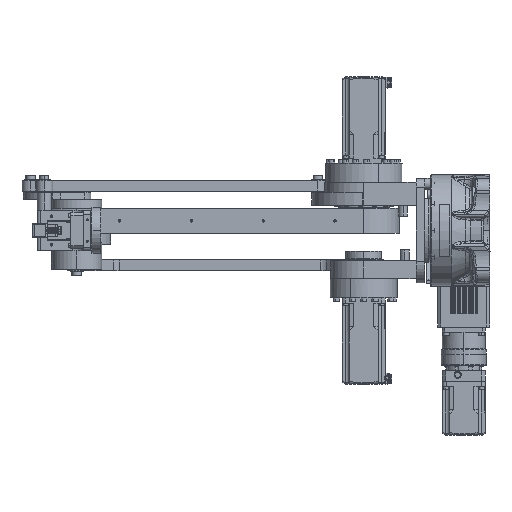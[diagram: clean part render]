
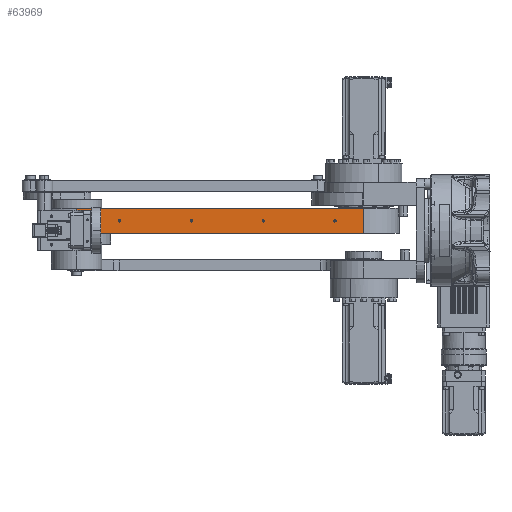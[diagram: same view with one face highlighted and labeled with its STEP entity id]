
A CAD part, left-side view. The second image highlights one B-rep face of the part: STEP entity #63969.
In plain terms, the highlighted planar face has unit normal (-1, 0, 0).
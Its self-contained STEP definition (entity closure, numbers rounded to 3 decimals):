
#525 = CARTESIAN_POINT ( 'NONE',  ( -50., 176., 31. ) ) ;
#1633 = PLANE ( 'NONE',  #113576 ) ;
#2917 = AXIS2_PLACEMENT_3D ( 'NONE', #69929, #74149, #100981 ) ;
#3116 = DIRECTION ( 'NONE',  ( -1., 0., 0. ) ) ;
#5730 = CARTESIAN_POINT ( 'NONE',  ( -50., 176., -513.902 ) ) ;
#5913 = CARTESIAN_POINT ( 'NONE',  ( -50., 576., -4. ) ) ;
#11472 = CARTESIAN_POINT ( 'NONE',  ( -50., 316., 15.15 ) ) ;
#12243 = CARTESIAN_POINT ( 'NONE',  ( -50., 216., 11.85 ) ) ;
#12965 = CARTESIAN_POINT ( 'NONE',  ( -50., 216., 13.5 ) ) ;
#13196 = ORIENTED_EDGE ( 'NONE', *, *, #32798, .F. ) ;
#15550 = CARTESIAN_POINT ( 'NONE',  ( -50., 516., 13.5 ) ) ;
#16160 = ORIENTED_EDGE ( 'NONE', *, *, #50538, .F. ) ;
#16475 = VECTOR ( 'NONE', #109667, 1000. ) ;
#16821 = VECTOR ( 'NONE', #26064, 1000. ) ;
#17312 = CARTESIAN_POINT ( 'NONE',  ( -50., 316., 13.5 ) ) ;
#17366 = AXIS2_PLACEMENT_3D ( 'NONE', #92633, #33079, #98322 ) ;
#18034 = EDGE_LOOP ( 'NONE', ( #18343, #65172 ) ) ;
#18343 = ORIENTED_EDGE ( 'NONE', *, *, #40733, .F. ) ;
#18362 = CIRCLE ( 'NONE', #63057, 1.65 ) ;
#19363 = CIRCLE ( 'NONE', #17366, 1.65 ) ;
#19837 = DIRECTION ( 'NONE',  ( -1., 0., 0. ) ) ;
#20478 = ORIENTED_EDGE ( 'NONE', *, *, #93590, .T. ) ;
#22432 = CARTESIAN_POINT ( 'NONE',  ( -50., 416., 15.15 ) ) ;
#22433 = CARTESIAN_POINT ( 'NONE',  ( -50., 316., 11.85 ) ) ;
#24228 = ORIENTED_EDGE ( 'NONE', *, *, #67239, .F. ) ;
#26064 = DIRECTION ( 'NONE',  ( 0., 0., 1. ) ) ;
#26521 = EDGE_CURVE ( 'NONE', #49758, #29054, #41412, .T. ) ;
#27035 = DIRECTION ( 'NONE',  ( 0., 0., 1. ) ) ;
#28426 = FACE_BOUND ( 'NONE', #18034, .T. ) ;
#29054 = VERTEX_POINT ( 'NONE', #95643 ) ;
#30687 = EDGE_CURVE ( 'NONE', #44742, #85537, #41063, .T. ) ;
#31754 = VERTEX_POINT ( 'NONE', #5913 ) ;
#32193 = LINE ( 'NONE', #83941, #16821 ) ;
#32798 = EDGE_CURVE ( 'NONE', #38371, #34605, #41405, .T. ) ;
#33061 = VERTEX_POINT ( 'NONE', #39177 ) ;
#33079 = DIRECTION ( 'NONE',  ( -1., 0., 0. ) ) ;
#33717 = LINE ( 'NONE', #5730, #47131 ) ;
#34605 = VERTEX_POINT ( 'NONE', #115883 ) ;
#35275 = LINE ( 'NONE', #43239, #16475 ) ;
#36348 = CARTESIAN_POINT ( 'NONE',  ( -50., 176., -4. ) ) ;
#38090 = VECTOR ( 'NONE', #46683, 1000. ) ;
#38171 = FACE_BOUND ( 'NONE', #45990, .T. ) ;
#38371 = VERTEX_POINT ( 'NONE', #22432 ) ;
#39177 = CARTESIAN_POINT ( 'NONE',  ( -50., 176., -4. ) ) ;
#40164 = EDGE_CURVE ( 'NONE', #34605, #38371, #19363, .T. ) ;
#40733 = EDGE_CURVE ( 'NONE', #56776, #105248, #71992, .T. ) ;
#41063 = CIRCLE ( 'NONE', #87777, 1.65 ) ;
#41386 = ORIENTED_EDGE ( 'NONE', *, *, #97782, .F. ) ;
#41405 = CIRCLE ( 'NONE', #49126, 1.65 ) ;
#41412 = CIRCLE ( 'NONE', #88135, 1.65 ) ;
#43239 = CARTESIAN_POINT ( 'NONE',  ( -50., 176., 31. ) ) ;
#43655 = ORIENTED_EDGE ( 'NONE', *, *, #40164, .F. ) ;
#44067 = DIRECTION ( 'NONE',  ( 0., 0., 1. ) ) ;
#44742 = VERTEX_POINT ( 'NONE', #12243 ) ;
#44777 = CARTESIAN_POINT ( 'NONE',  ( -50., 576., 31. ) ) ;
#45327 = DIRECTION ( 'NONE',  ( -1., 0., 0. ) ) ;
#45990 = EDGE_LOOP ( 'NONE', ( #85791, #16160 ) ) ;
#46683 = DIRECTION ( 'NONE',  ( 0., 1., 0. ) ) ;
#46735 = DIRECTION ( 'NONE',  ( -1., 0., 0. ) ) ;
#46873 = AXIS2_PLACEMENT_3D ( 'NONE', #48774, #3116, #85380 ) ;
#47131 = VECTOR ( 'NONE', #44067, 1000. ) ;
#47894 = FACE_OUTER_BOUND ( 'NONE', #72154, .T. ) ;
#48774 = CARTESIAN_POINT ( 'NONE',  ( -50., 316., 13.5 ) ) ;
#49126 = AXIS2_PLACEMENT_3D ( 'NONE', #103357, #58202, #75908 ) ;
#49758 = VERTEX_POINT ( 'NONE', #102264 ) ;
#50538 = EDGE_CURVE ( 'NONE', #29054, #49758, #18362, .T. ) ;
#53869 = DIRECTION ( 'NONE',  ( -1., 0., 0. ) ) ;
#56776 = VERTEX_POINT ( 'NONE', #11472 ) ;
#56994 = DIRECTION ( 'NONE',  ( 0., 0., 1. ) ) ;
#58202 = DIRECTION ( 'NONE',  ( -1., 0., 0. ) ) ;
#63057 = AXIS2_PLACEMENT_3D ( 'NONE', #15550, #53869, #89875 ) ;
#63969 = ADVANCED_FACE ( 'NONE', ( #105194, #28426, #103399, #38171, #47894 ), #1633, .F. ) ;
#65172 = ORIENTED_EDGE ( 'NONE', *, *, #115841, .F. ) ;
#67239 = EDGE_CURVE ( 'NONE', #31754, #87718, #32193, .T. ) ;
#67995 = DIRECTION ( 'NONE',  ( 0., -1., 0. ) ) ;
#68276 = CIRCLE ( 'NONE', #46873, 1.65 ) ;
#69929 = CARTESIAN_POINT ( 'NONE',  ( -50., 216., 13.5 ) ) ;
#71632 = EDGE_CURVE ( 'NONE', #82691, #87718, #35275, .T. ) ;
#71992 = CIRCLE ( 'NONE', #116807, 1.65 ) ;
#72087 = EDGE_CURVE ( 'NONE', #85537, #44742, #102174, .T. ) ;
#72154 = EDGE_LOOP ( 'NONE', ( #41386, #20478, #106053, #24228 ) ) ;
#74149 = DIRECTION ( 'NONE',  ( -1., 0., 0. ) ) ;
#75351 = DIRECTION ( 'NONE',  ( 1., 0., 0. ) ) ;
#75374 = CARTESIAN_POINT ( 'NONE',  ( -50., 516., 13.5 ) ) ;
#75908 = DIRECTION ( 'NONE',  ( 0., 0., 1. ) ) ;
#77157 = CARTESIAN_POINT ( 'NONE',  ( -50., 176., -513.902 ) ) ;
#81470 = LINE ( 'NONE', #36348, #38090 ) ;
#82691 = VERTEX_POINT ( 'NONE', #525 ) ;
#83325 = DIRECTION ( 'NONE',  ( 0., 0., 1. ) ) ;
#83941 = CARTESIAN_POINT ( 'NONE',  ( -50., 576., -513.902 ) ) ;
#84628 = ORIENTED_EDGE ( 'NONE', *, *, #30687, .F. ) ;
#85380 = DIRECTION ( 'NONE',  ( 0., 0., 1. ) ) ;
#85537 = VERTEX_POINT ( 'NONE', #100224 ) ;
#85791 = ORIENTED_EDGE ( 'NONE', *, *, #26521, .F. ) ;
#87718 = VERTEX_POINT ( 'NONE', #44777 ) ;
#87777 = AXIS2_PLACEMENT_3D ( 'NONE', #12965, #19837, #56994 ) ;
#88054 = ORIENTED_EDGE ( 'NONE', *, *, #72087, .F. ) ;
#88135 = AXIS2_PLACEMENT_3D ( 'NONE', #75374, #46735, #83325 ) ;
#89875 = DIRECTION ( 'NONE',  ( 0., 0., 1. ) ) ;
#92633 = CARTESIAN_POINT ( 'NONE',  ( -50., 416., 13.5 ) ) ;
#93590 = EDGE_CURVE ( 'NONE', #33061, #82691, #33717, .T. ) ;
#95643 = CARTESIAN_POINT ( 'NONE',  ( -50., 516., 11.85 ) ) ;
#97782 = EDGE_CURVE ( 'NONE', #33061, #31754, #81470, .T. ) ;
#98322 = DIRECTION ( 'NONE',  ( 0., 0., 1. ) ) ;
#100224 = CARTESIAN_POINT ( 'NONE',  ( -50., 216., 15.15 ) ) ;
#100981 = DIRECTION ( 'NONE',  ( 0., 0., 1. ) ) ;
#102174 = CIRCLE ( 'NONE', #2917, 1.65 ) ;
#102264 = CARTESIAN_POINT ( 'NONE',  ( -50., 516., 15.15 ) ) ;
#103357 = CARTESIAN_POINT ( 'NONE',  ( -50., 416., 13.5 ) ) ;
#103399 = FACE_BOUND ( 'NONE', #112703, .T. ) ;
#105194 = FACE_BOUND ( 'NONE', #119248, .T. ) ;
#105248 = VERTEX_POINT ( 'NONE', #22433 ) ;
#106053 = ORIENTED_EDGE ( 'NONE', *, *, #71632, .T. ) ;
#109667 = DIRECTION ( 'NONE',  ( 0., 1., 0. ) ) ;
#112703 = EDGE_LOOP ( 'NONE', ( #88054, #84628 ) ) ;
#113576 = AXIS2_PLACEMENT_3D ( 'NONE', #77157, #75351, #67995 ) ;
#115841 = EDGE_CURVE ( 'NONE', #105248, #56776, #68276, .T. ) ;
#115883 = CARTESIAN_POINT ( 'NONE',  ( -50., 416., 11.85 ) ) ;
#116807 = AXIS2_PLACEMENT_3D ( 'NONE', #17312, #45327, #27035 ) ;
#119248 = EDGE_LOOP ( 'NONE', ( #13196, #43655 ) ) ;
